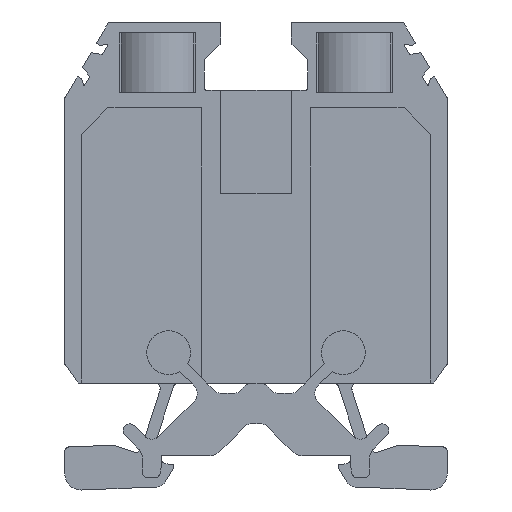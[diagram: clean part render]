
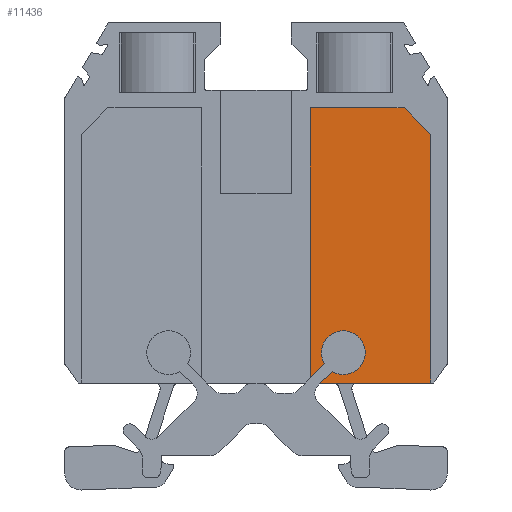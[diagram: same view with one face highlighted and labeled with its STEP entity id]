
A CAD part, left-side view. The second image highlights one B-rep face of the part: STEP entity #11436.
In plain terms, the highlighted planar face has unit normal (-1, 0, 0).
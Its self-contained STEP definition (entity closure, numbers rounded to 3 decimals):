
#329=CIRCLE('',#11756,4.02);
#2447=ORIENTED_EDGE('',*,*,#3319,.T.);
#2448=ORIENTED_EDGE('',*,*,#3168,.T.);
#2449=ORIENTED_EDGE('',*,*,#3476,.T.);
#2450=ORIENTED_EDGE('',*,*,#4000,.T.);
#2451=ORIENTED_EDGE('',*,*,#4001,.T.);
#2452=ORIENTED_EDGE('',*,*,#4002,.T.);
#2453=ORIENTED_EDGE('',*,*,#4003,.T.);
#2454=ORIENTED_EDGE('',*,*,#3316,.T.);
#3168=EDGE_CURVE('',#4306,#4305,#5090,.T.);
#3316=EDGE_CURVE('',#4403,#4404,#5192,.T.);
#3319=EDGE_CURVE('',#4404,#4306,#329,.F.);
#3476=EDGE_CURVE('',#4305,#4536,#5314,.T.);
#4000=EDGE_CURVE('',#4536,#4857,#5708,.T.);
#4001=EDGE_CURVE('',#4857,#4858,#5709,.T.);
#4002=EDGE_CURVE('',#4858,#4859,#5710,.T.);
#4003=EDGE_CURVE('',#4859,#4403,#5711,.T.);
#4305=VERTEX_POINT('',#15174);
#4306=VERTEX_POINT('',#15176);
#4403=VERTEX_POINT('',#15483);
#4404=VERTEX_POINT('',#15484);
#4536=VERTEX_POINT('',#15810);
#4857=VERTEX_POINT('',#16871);
#4858=VERTEX_POINT('',#16873);
#4859=VERTEX_POINT('',#16875);
#5090=LINE('',#15175,#5951);
#5192=LINE('',#15482,#6053);
#5314=LINE('',#15811,#6175);
#5708=LINE('',#16870,#6569);
#5709=LINE('',#16872,#6570);
#5710=LINE('',#16874,#6571);
#5711=LINE('',#16876,#6572);
#5951=VECTOR('',#12731,1000.);
#6053=VECTOR('',#13001,1000.);
#6175=VECTOR('',#13261,1000.);
#6569=VECTOR('',#14345,1000.);
#6570=VECTOR('',#14346,1000.);
#6571=VECTOR('',#14347,1000.);
#6572=VECTOR('',#14348,1000.);
#7056=EDGE_LOOP('',(#2447,#2448,#2449,#2450,#2451,#2452,#2453,#2454));
#7551=FACE_BOUND('',#7056,.T.);
#7868=PLANE('',#12168);
#11436=ADVANCED_FACE('',(#7551),#7868,.T.);
#11756=AXIS2_PLACEMENT_3D('',#15491,#13005,#13006);
#12168=AXIS2_PLACEMENT_3D('',#16869,#14343,#14344);
#12731=DIRECTION('',(0.,0.707,-0.707));
#13001=DIRECTION('',(0.,-0.707,0.707));
#13005=DIRECTION('',(-1.,0.,0.));
#13006=DIRECTION('',(0.,-1.,0.));
#13261=DIRECTION('',(0.,-1.,0.));
#14343=DIRECTION('',(-1.,0.,0.));
#14344=DIRECTION('',(0.,0.,-1.));
#14345=DIRECTION('',(0.,0.,1.));
#14346=DIRECTION('',(0.,0.707,0.707));
#14347=DIRECTION('',(0.,1.,0.));
#14348=DIRECTION('',(0.,0.,-1.));
#15174=CARTESIAN_POINT('',(-25.506,-11.881,-23.615));
#15175=CARTESIAN_POINT('',(-25.506,-11.321,-24.174));
#15176=CARTESIAN_POINT('',(-25.506,-13.972,-21.524));
#15482=CARTESIAN_POINT('',(-25.506,-12.623,-19.989));
#15483=CARTESIAN_POINT('',(-25.506,-9.957,-22.655));
#15484=CARTESIAN_POINT('',(-25.506,-12.53,-20.082));
#15491=CARTESIAN_POINT('',(-25.506,-16.,-18.054));
#15810=CARTESIAN_POINT('',(-25.506,-32.03,-23.615));
#15811=CARTESIAN_POINT('',(-25.506,0.,-23.615));
#16869=CARTESIAN_POINT('',(-25.506,-27.125,26.809));
#16870=CARTESIAN_POINT('',(-25.506,-32.03,-24.203));
#16871=CARTESIAN_POINT('',(-25.506,-32.03,21.904));
#16872=CARTESIAN_POINT('',(-25.506,-27.125,26.809));
#16873=CARTESIAN_POINT('',(-25.506,-27.125,26.809));
#16874=CARTESIAN_POINT('',(-25.506,-27.125,26.809));
#16875=CARTESIAN_POINT('',(-25.506,-9.957,26.809));
#16876=CARTESIAN_POINT('',(-25.506,-9.957,26.809));
